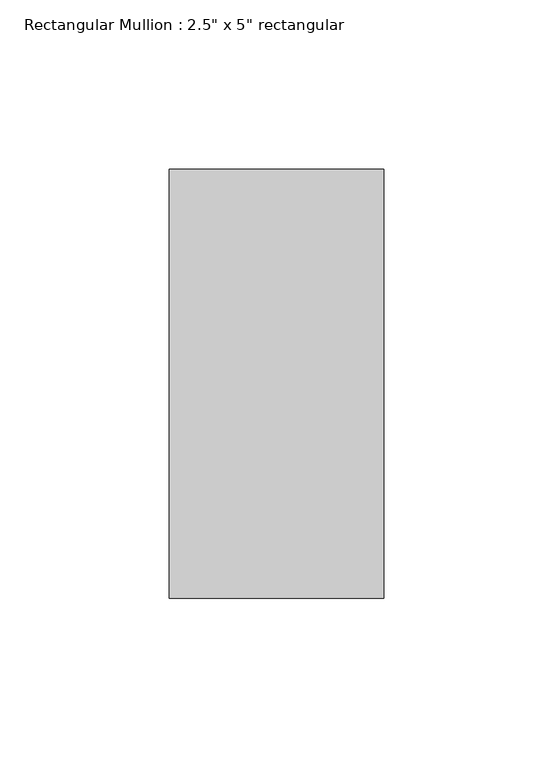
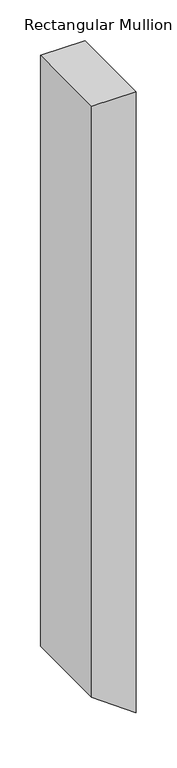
"""IFC4 building model written with IfcOpenShell, lengths in millimetres: member geometry."""

from ifc_helpers import new_model, si_unit, frame, origin, place, context, project, spatial, polyline, outline, extrude, source, transform, mapped, element, save


def member_97c9a22f(model_context):
    return source(origin(), model_context, "Body", "SweptSolid", [
        extrude(outline(polyline([(0.0, 0.0), (0.0, -63.5), (-890.2443793, -63.5), (-936.0125897, 0.0), (0.0, 0.0)])), frame((0.0, -63.5, 0.0), z_axis=(0.0, 1.0, 0.0), x_axis=(0.0, 0.0, 1.0)), (0.0, 0.0, 1.0), 127.0),
    ])


if __name__ == "__main__":
    model = new_model("IFC4")
    model_context = context("Model", 3, world=origin())
    ifc_project = project(units=[si_unit("LENGTHUNIT", "METRE", prefix="MILLI")], contexts=[model_context])
    site = spatial("IfcSite", under=ifc_project)
    building = spatial("IfcBuilding", under=site)
    placement = place(None, origin())
    member_shape = member_97c9a22f(model_context)
    element("IfcMember", 1, ObjectType="Rectangular Mullion : 2.5\" x 5\" rectangular", at=placement, inside=building, context=model_context, shape_type="MappedRepresentation", body=[
        mapped(member_shape, transform((0.0, 0.0, 0.0), x_axis=(1.0, 0.0, 0.0), y_axis=(0.0, 1.0, 0.0), z_axis=(0.0, 0.0, 1.0))),
    ])
    save(model, "model.ifc")
